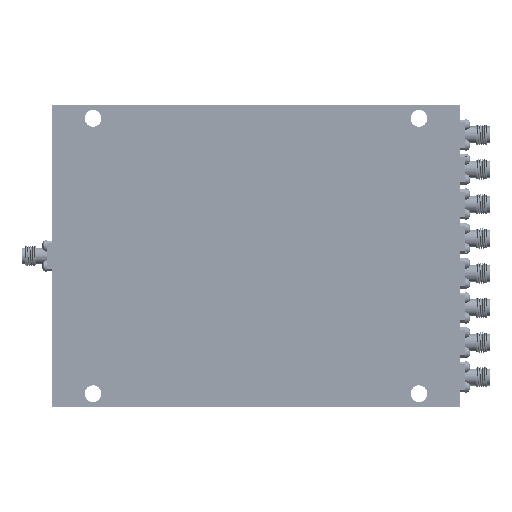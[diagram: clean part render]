
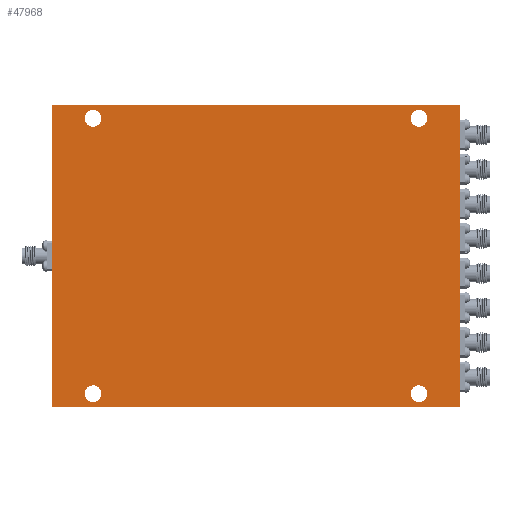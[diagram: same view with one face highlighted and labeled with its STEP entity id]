
A CAD part, front view. The second image highlights one B-rep face of the part: STEP entity #47968.
In plain terms, the highlighted planar face has unit normal (0, -1, 0).
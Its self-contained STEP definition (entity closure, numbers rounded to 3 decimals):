
#343 = FACE_BOUND ( 'NONE', #25297, .T. ) ;
#2129 = AXIS2_PLACEMENT_3D ( 'NONE', #171671, #81676, #114852 ) ;
#8552 = DIRECTION ( 'NONE',  ( 0., 1., 0. ) ) ;
#17379 = AXIS2_PLACEMENT_3D ( 'NONE', #29949, #28065, #160780 ) ;
#18731 = CARTESIAN_POINT ( 'NONE',  ( 114.376, -10.16, -87.351 ) ) ;
#20339 = DIRECTION ( 'NONE',  ( 0., 0., 1. ) ) ;
#24861 = CIRCLE ( 'NONE', #82472, 2.591 ) ;
#25297 = EDGE_LOOP ( 'NONE', ( #42292, #109595 ) ) ;
#26557 = DIRECTION ( 'NONE',  ( 0., 0., 1. ) ) ;
#27307 = ORIENTED_EDGE ( 'NONE', *, *, #135896, .F. ) ;
#28065 = DIRECTION ( 'NONE',  ( 0., 1., 0. ) ) ;
#28934 = VERTEX_POINT ( 'NONE', #29228 ) ;
#29228 = CARTESIAN_POINT ( 'NONE',  ( 12.7, -10.16, -92.532 ) ) ;
#29949 = CARTESIAN_POINT ( 'NONE',  ( 114.376, -10.16, -89.941 ) ) ;
#31045 = ORIENTED_EDGE ( 'NONE', *, *, #177113, .F. ) ;
#32246 = EDGE_LOOP ( 'NONE', ( #140503, #181461 ) ) ;
#34430 = ORIENTED_EDGE ( 'NONE', *, *, #38997, .T. ) ;
#35008 = VECTOR ( 'NONE', #151740, 1000. ) ;
#37418 = VECTOR ( 'NONE', #65972, 1000. ) ;
#37514 = LINE ( 'NONE', #164607, #37418 ) ;
#38997 = EDGE_CURVE ( 'NONE', #131307, #183180, #147629, .T. ) ;
#39174 = CARTESIAN_POINT ( 'NONE',  ( 0., -10.16, -94.005 ) ) ;
#40227 = ORIENTED_EDGE ( 'NONE', *, *, #145866, .F. ) ;
#40771 = CARTESIAN_POINT ( 'NONE',  ( 114.376, -10.16, -89.941 ) ) ;
#41173 = DIRECTION ( 'NONE',  ( 0., -1., 0. ) ) ;
#42242 = ORIENTED_EDGE ( 'NONE', *, *, #115604, .T. ) ;
#42292 = ORIENTED_EDGE ( 'NONE', *, *, #59116, .T. ) ;
#42538 = CARTESIAN_POINT ( 'NONE',  ( 12.7, -10.16, -1.476 ) ) ;
#46907 = LINE ( 'NONE', #136135, #168668 ) ;
#47968 = ADVANCED_FACE ( 'NONE', ( #101922, #142723, #170234, #343, #187308 ), #71534, .T. ) ;
#48177 = EDGE_CURVE ( 'NONE', #116354, #132384, #168682, .T. ) ;
#54521 = DIRECTION ( 'NONE',  ( 0., 0., -1. ) ) ;
#54747 = DIRECTION ( 'NONE',  ( 0., 1., 0. ) ) ;
#57889 = CARTESIAN_POINT ( 'NONE',  ( 114.376, -10.16, -4.067 ) ) ;
#58804 = DIRECTION ( 'NONE',  ( 0., 1., 0. ) ) ;
#58832 = EDGE_LOOP ( 'NONE', ( #107312, #34430 ) ) ;
#59116 = EDGE_CURVE ( 'NONE', #66417, #109897, #145054, .T. ) ;
#59863 = CARTESIAN_POINT ( 'NONE',  ( 12.7, -10.16, -87.351 ) ) ;
#62440 = ORIENTED_EDGE ( 'NONE', *, *, #93150, .F. ) ;
#62748 = AXIS2_PLACEMENT_3D ( 'NONE', #138540, #8552, #167816 ) ;
#63875 = EDGE_CURVE ( 'NONE', #183180, #131307, #122067, .T. ) ;
#65972 = DIRECTION ( 'NONE',  ( -1., 0., 0. ) ) ;
#65977 = CARTESIAN_POINT ( 'NONE',  ( 0., -10.16, 0. ) ) ;
#66417 = VERTEX_POINT ( 'NONE', #114190 ) ;
#69677 = CARTESIAN_POINT ( 'NONE',  ( 0., -10.16, 0. ) ) ;
#71534 = PLANE ( 'NONE',  #135476 ) ;
#75578 = AXIS2_PLACEMENT_3D ( 'NONE', #57889, #58804, #85504 ) ;
#81676 = DIRECTION ( 'NONE',  ( 0., 1., 0. ) ) ;
#82472 = AXIS2_PLACEMENT_3D ( 'NONE', #187311, #181134, #155412 ) ;
#82482 = VERTEX_POINT ( 'NONE', #39174 ) ;
#84786 = VERTEX_POINT ( 'NONE', #147318 ) ;
#85504 = DIRECTION ( 'NONE',  ( 0., 0., 1. ) ) ;
#88782 = EDGE_CURVE ( 'NONE', #28934, #119137, #153618, .T. ) ;
#89563 = DIRECTION ( 'NONE',  ( 0., 1., 0. ) ) ;
#93150 = EDGE_CURVE ( 'NONE', #119238, #82482, #37514, .T. ) ;
#100916 = AXIS2_PLACEMENT_3D ( 'NONE', #40771, #143250, #26557 ) ;
#101922 = FACE_OUTER_BOUND ( 'NONE', #175776, .T. ) ;
#104709 = DIRECTION ( 'NONE',  ( 0., 0., 1. ) ) ;
#107312 = ORIENTED_EDGE ( 'NONE', *, *, #63875, .T. ) ;
#109595 = ORIENTED_EDGE ( 'NONE', *, *, #130306, .T. ) ;
#109897 = VERTEX_POINT ( 'NONE', #186921 ) ;
#114190 = CARTESIAN_POINT ( 'NONE',  ( 114.376, -10.16, -1.476 ) ) ;
#114852 = DIRECTION ( 'NONE',  ( 0., 0., 1. ) ) ;
#115604 = EDGE_CURVE ( 'NONE', #132384, #116354, #24861, .T. ) ;
#116354 = VERTEX_POINT ( 'NONE', #179746 ) ;
#119137 = VERTEX_POINT ( 'NONE', #59863 ) ;
#119238 = VERTEX_POINT ( 'NONE', #165801 ) ;
#121041 = CIRCLE ( 'NONE', #75578, 2.591 ) ;
#122067 = CIRCLE ( 'NONE', #100916, 2.591 ) ;
#127155 = EDGE_LOOP ( 'NONE', ( #42242, #137982 ) ) ;
#130306 = EDGE_CURVE ( 'NONE', #109897, #66417, #121041, .T. ) ;
#131089 = CARTESIAN_POINT ( 'NONE',  ( 114.376, -10.16, -92.532 ) ) ;
#131307 = VERTEX_POINT ( 'NONE', #131089 ) ;
#131348 = CARTESIAN_POINT ( 'NONE',  ( 12.7, -10.16, -4.067 ) ) ;
#132384 = VERTEX_POINT ( 'NONE', #42538 ) ;
#132486 = AXIS2_PLACEMENT_3D ( 'NONE', #131348, #89563, #104709 ) ;
#135476 = AXIS2_PLACEMENT_3D ( 'NONE', #69677, #41173, #54521 ) ;
#135737 = LINE ( 'NONE', #179322, #35008 ) ;
#135896 = EDGE_CURVE ( 'NONE', #137805, #119238, #135737, .T. ) ;
#136135 = CARTESIAN_POINT ( 'NONE',  ( 0., -10.16, 0. ) ) ;
#137805 = VERTEX_POINT ( 'NONE', #170953 ) ;
#137982 = ORIENTED_EDGE ( 'NONE', *, *, #48177, .T. ) ;
#138540 = CARTESIAN_POINT ( 'NONE',  ( 12.7, -10.16, -89.941 ) ) ;
#139076 = LINE ( 'NONE', #65977, #144540 ) ;
#140503 = ORIENTED_EDGE ( 'NONE', *, *, #177335, .T. ) ;
#142723 = FACE_BOUND ( 'NONE', #32246, .T. ) ;
#143250 = DIRECTION ( 'NONE',  ( 0., 1., 0. ) ) ;
#144540 = VECTOR ( 'NONE', #168363, 1000. ) ;
#145054 = CIRCLE ( 'NONE', #163135, 2.591 ) ;
#145866 = EDGE_CURVE ( 'NONE', #84786, #137805, #139076, .T. ) ;
#147318 = CARTESIAN_POINT ( 'NONE',  ( 0., -10.16, 0. ) ) ;
#147629 = CIRCLE ( 'NONE', #17379, 2.591 ) ;
#150543 = CIRCLE ( 'NONE', #2129, 2.591 ) ;
#151740 = DIRECTION ( 'NONE',  ( 0., 0., -1. ) ) ;
#153618 = CIRCLE ( 'NONE', #62748, 2.591 ) ;
#155412 = DIRECTION ( 'NONE',  ( 0., 0., 1. ) ) ;
#160780 = DIRECTION ( 'NONE',  ( 0., 0., 1. ) ) ;
#163135 = AXIS2_PLACEMENT_3D ( 'NONE', #184742, #54747, #171394 ) ;
#164607 = CARTESIAN_POINT ( 'NONE',  ( 0., -10.16, -94.005 ) ) ;
#165801 = CARTESIAN_POINT ( 'NONE',  ( 127.076, -10.16, -94.005 ) ) ;
#167816 = DIRECTION ( 'NONE',  ( 0., 0., 1. ) ) ;
#168363 = DIRECTION ( 'NONE',  ( 1., 0., 0. ) ) ;
#168668 = VECTOR ( 'NONE', #20339, 1000. ) ;
#168682 = CIRCLE ( 'NONE', #132486, 2.591 ) ;
#170234 = FACE_BOUND ( 'NONE', #127155, .T. ) ;
#170953 = CARTESIAN_POINT ( 'NONE',  ( 127.076, -10.16, 0. ) ) ;
#171394 = DIRECTION ( 'NONE',  ( 0., 0., 1. ) ) ;
#171671 = CARTESIAN_POINT ( 'NONE',  ( 12.7, -10.16, -89.941 ) ) ;
#175776 = EDGE_LOOP ( 'NONE', ( #31045, #62440, #27307, #40227 ) ) ;
#177113 = EDGE_CURVE ( 'NONE', #82482, #84786, #46907, .T. ) ;
#177335 = EDGE_CURVE ( 'NONE', #119137, #28934, #150543, .T. ) ;
#179322 = CARTESIAN_POINT ( 'NONE',  ( 127.076, -10.16, 0. ) ) ;
#179746 = CARTESIAN_POINT ( 'NONE',  ( 12.7, -10.16, -6.657 ) ) ;
#181134 = DIRECTION ( 'NONE',  ( 0., 1., 0. ) ) ;
#181461 = ORIENTED_EDGE ( 'NONE', *, *, #88782, .T. ) ;
#183180 = VERTEX_POINT ( 'NONE', #18731 ) ;
#184742 = CARTESIAN_POINT ( 'NONE',  ( 114.376, -10.16, -4.067 ) ) ;
#186921 = CARTESIAN_POINT ( 'NONE',  ( 114.376, -10.16, -6.657 ) ) ;
#187308 = FACE_BOUND ( 'NONE', #58832, .T. ) ;
#187311 = CARTESIAN_POINT ( 'NONE',  ( 12.7, -10.16, -4.067 ) ) ;
